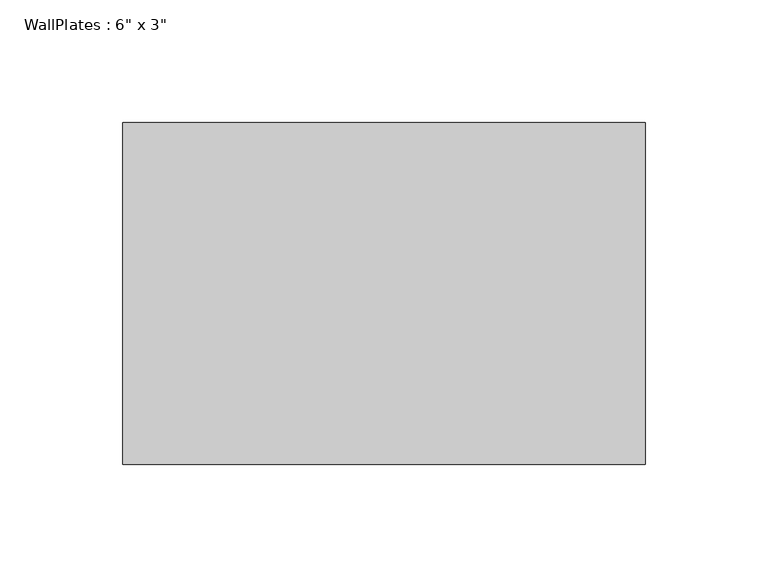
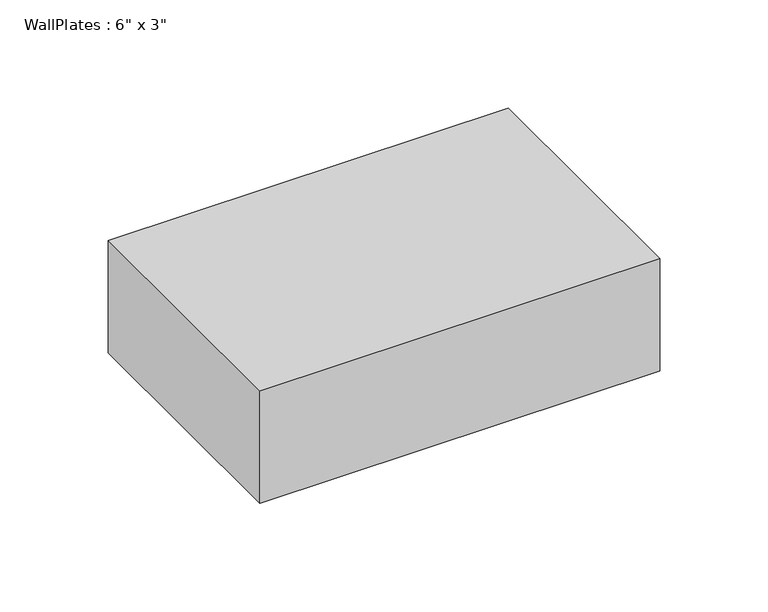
"""IFC4 building model written with IfcOpenShell, lengths in millimetres: beam geometry."""

from ifc_helpers import new_model, si_unit, frame, origin, place, context, project, spatial, polyline, outline, extrude, source, transform, mapped, element, save


def beam_c9832d0a(model_context):
    return source(origin(), model_context, "Body", "SweptSolid", [
        extrude(outline(polyline([(-106.68, -69.85), (-106.68, 69.85), (106.68, 69.85), (106.68, -69.85), (-106.68, -69.85)])), frame((0.0, 0.0, -31.75), z_axis=(0.0, 0.0, 1.0), x_axis=(1.0, 0.0, 0.0)), (0.0, 0.0, 1.0), 63.5),
    ])


if __name__ == "__main__":
    model = new_model("IFC4")
    model_context = context("Model", 3, world=origin())
    ifc_project = project(units=[si_unit("LENGTHUNIT", "METRE", prefix="MILLI")], contexts=[model_context])
    site = spatial("IfcSite", under=ifc_project)
    building = spatial("IfcBuilding", under=site)
    placement = place(None, origin())
    beam_shape = beam_c9832d0a(model_context)
    element("IfcBeam", 1, ObjectType="WallPlates : 6\" x 3\"", at=placement, inside=building, context=model_context, shape_type="MappedRepresentation", body=[
        mapped(beam_shape, transform((0.0, 0.0, 0.0), x_axis=(1.0, 0.0, 0.0), y_axis=(0.0, 1.0, 0.0), z_axis=(0.0, 0.0, 1.0))),
    ])
    save(model, "model.ifc")
